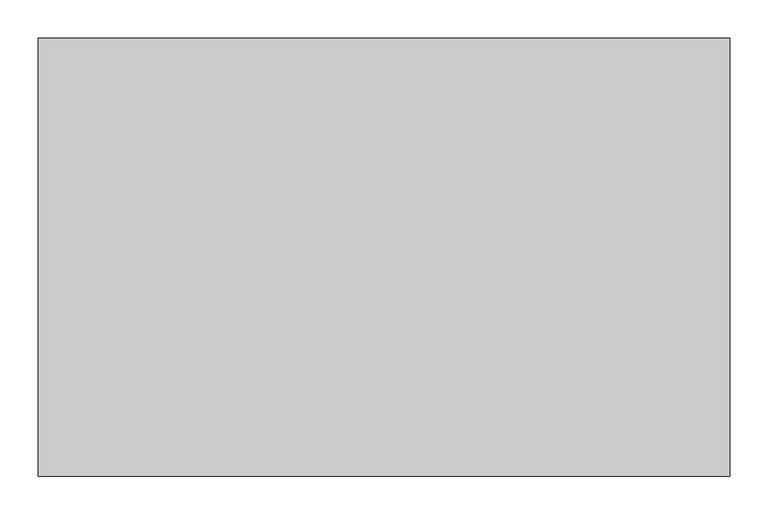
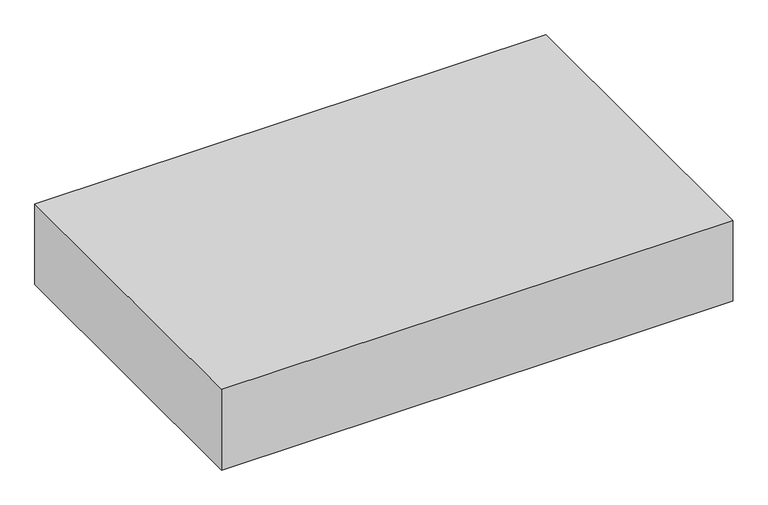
"""IFC4 building model written with IfcOpenShell, lengths in millimetres: proxy geometry, 機械基礎 : 機械基礎."""

from ifc_helpers import new_model, si_unit, origin, origin_with_axes, place, context, project, spatial, polyline, outline, extrude, source, transform, mapped, element, save


def specialty_equipment_b1b21cb5(model_context):
    return source(origin(), model_context, "Body", "SweptSolid", [
        extrude(outline(polyline([(450.0, -285.0), (-450.0, -285.0), (-450.0, 285.0), (450.0, 285.0), (450.0, -285.0)])), origin_with_axes(), (0.0, 0.0, 1.0), 150.0),
    ])


if __name__ == "__main__":
    model = new_model("IFC4")
    model_context = context("Model", 3, world=origin())
    ifc_project = project(units=[si_unit("LENGTHUNIT", "METRE", prefix="MILLI")], contexts=[model_context])
    site = spatial("IfcSite", under=ifc_project)
    building = spatial("IfcBuilding", under=site)
    placement = place(None, origin())
    specialty_equipment_shape = specialty_equipment_b1b21cb5(model_context)
    element("IfcBuildingElementProxy", 1, Name="機械基礎 : 機械基礎", ObjectType="機械基礎 : 機械基礎", at=placement, inside=building, context=model_context, shape_type="MappedRepresentation", body=[
        mapped(specialty_equipment_shape, transform((0.0, 0.0, 0.0), x_axis=(1.0, 0.0, 0.0), y_axis=(0.0, 1.0, 0.0), z_axis=(0.0, 0.0, 1.0))),
    ])
    save(model, "model.ifc")
